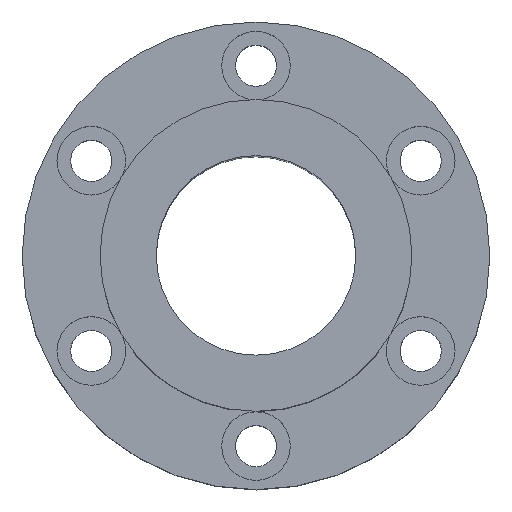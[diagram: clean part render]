
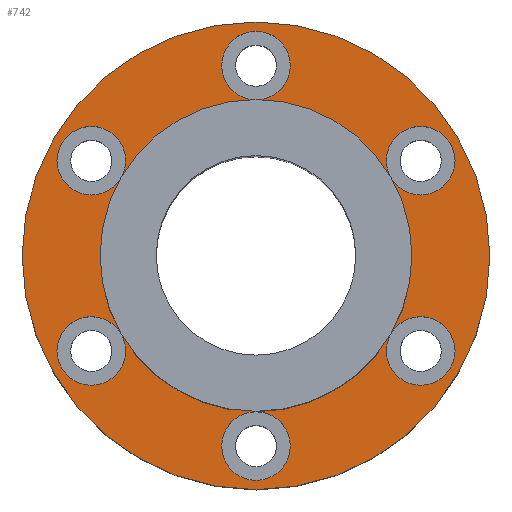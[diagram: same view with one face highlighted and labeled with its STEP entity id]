
A CAD part, top view. The second image highlights one B-rep face of the part: STEP entity #742.
In plain terms, the highlighted planar face has unit normal (0, 0, 1).
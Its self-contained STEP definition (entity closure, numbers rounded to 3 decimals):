
#1=CARTESIAN_POINT('',(0.,0.,14.5));
#2=DIRECTION('',(0.,0.,-1.));
#3=DIRECTION('',(0.866,0.5,0.));
#4=AXIS2_PLACEMENT_3D('',#1,#2,#3);
#6=CARTESIAN_POINT('',(26.414,15.25,14.5));
#7=DIRECTION('',(0.,0.,-1.));
#8=DIRECTION('',(0.5,-0.866,0.));
#9=AXIS2_PLACEMENT_3D('',#6,#7,#8);
#11=CARTESIAN_POINT('',(26.414,15.25,14.5));
#12=DIRECTION('',(0.,0.,-1.));
#13=DIRECTION('',(-0.5,0.866,0.));
#14=AXIS2_PLACEMENT_3D('',#11,#12,#13);
#16=CARTESIAN_POINT('',(26.414,15.25,14.5));
#17=DIRECTION('',(0.,0.,-1.));
#18=DIRECTION('',(-0.866,-0.5,0.));
#19=AXIS2_PLACEMENT_3D('',#16,#17,#18);
#21=CARTESIAN_POINT('',(0.,0.,14.5));
#22=DIRECTION('',(0.,0.,-1.));
#23=DIRECTION('',(0.,1.,0.));
#24=AXIS2_PLACEMENT_3D('',#21,#22,#23);
#26=CARTESIAN_POINT('',(0.,30.5,14.5));
#27=DIRECTION('',(0.,0.,-1.));
#28=DIRECTION('',(1.,0.,0.));
#29=AXIS2_PLACEMENT_3D('',#26,#27,#28);
#31=CARTESIAN_POINT('',(0.,30.5,14.5));
#32=DIRECTION('',(0.,0.,-1.));
#33=DIRECTION('',(-1.,0.,0.));
#34=AXIS2_PLACEMENT_3D('',#31,#32,#33);
#36=CARTESIAN_POINT('',(0.,30.5,14.5));
#37=DIRECTION('',(0.,0.,-1.));
#38=DIRECTION('',(0.,-1.,0.));
#39=AXIS2_PLACEMENT_3D('',#36,#37,#38);
#41=CARTESIAN_POINT('',(0.,0.,14.5));
#42=DIRECTION('',(0.,0.,-1.));
#43=DIRECTION('',(-0.866,0.5,0.));
#44=AXIS2_PLACEMENT_3D('',#41,#42,#43);
#46=CARTESIAN_POINT('',(-26.414,15.25,14.5));
#47=DIRECTION('',(0.,0.,-1.));
#48=DIRECTION('',(0.5,0.866,0.));
#49=AXIS2_PLACEMENT_3D('',#46,#47,#48);
#51=CARTESIAN_POINT('',(-26.414,15.25,14.5));
#52=DIRECTION('',(0.,0.,-1.));
#53=DIRECTION('',(-0.5,-0.866,0.));
#54=AXIS2_PLACEMENT_3D('',#51,#52,#53);
#56=CARTESIAN_POINT('',(-26.414,15.25,14.5));
#57=DIRECTION('',(0.,0.,-1.));
#58=DIRECTION('',(0.866,-0.5,0.));
#59=AXIS2_PLACEMENT_3D('',#56,#57,#58);
#61=CARTESIAN_POINT('',(0.,0.,14.5));
#62=DIRECTION('',(0.,0.,-1.));
#63=DIRECTION('',(-1.,0.,0.));
#64=AXIS2_PLACEMENT_3D('',#61,#62,#63);
#66=CARTESIAN_POINT('',(0.,0.,14.5));
#67=DIRECTION('',(0.,0.,-1.));
#68=DIRECTION('',(-0.866,-0.5,0.));
#69=AXIS2_PLACEMENT_3D('',#66,#67,#68);
#71=CARTESIAN_POINT('',(-26.414,-15.25,14.5));
#72=DIRECTION('',(0.,0.,-1.));
#73=DIRECTION('',(-0.5,0.866,0.));
#74=AXIS2_PLACEMENT_3D('',#71,#72,#73);
#76=CARTESIAN_POINT('',(-26.414,-15.25,14.5));
#77=DIRECTION('',(0.,0.,-1.));
#78=DIRECTION('',(0.5,-0.866,0.));
#79=AXIS2_PLACEMENT_3D('',#76,#77,#78);
#81=CARTESIAN_POINT('',(-26.414,-15.25,14.5));
#82=DIRECTION('',(0.,0.,-1.));
#83=DIRECTION('',(0.866,0.5,0.));
#84=AXIS2_PLACEMENT_3D('',#81,#82,#83);
#86=CARTESIAN_POINT('',(0.,0.,14.5));
#87=DIRECTION('',(0.,0.,-1.));
#88=DIRECTION('',(0.,-1.,0.));
#89=AXIS2_PLACEMENT_3D('',#86,#87,#88);
#91=CARTESIAN_POINT('',(0.,-30.5,14.5));
#92=DIRECTION('',(0.,0.,-1.));
#93=DIRECTION('',(-1.,0.,0.));
#94=AXIS2_PLACEMENT_3D('',#91,#92,#93);
#96=CARTESIAN_POINT('',(0.,-30.5,14.5));
#97=DIRECTION('',(0.,0.,-1.));
#98=DIRECTION('',(1.,0.,0.));
#99=AXIS2_PLACEMENT_3D('',#96,#97,#98);
#101=CARTESIAN_POINT('',(0.,-30.5,14.5));
#102=DIRECTION('',(0.,0.,-1.));
#103=DIRECTION('',(0.,1.,0.));
#104=AXIS2_PLACEMENT_3D('',#101,#102,#103);
#106=CARTESIAN_POINT('',(0.,0.,14.5));
#107=DIRECTION('',(0.,0.,-1.));
#108=DIRECTION('',(0.866,-0.5,0.));
#109=AXIS2_PLACEMENT_3D('',#106,#107,#108);
#111=CARTESIAN_POINT('',(26.414,-15.25,14.5));
#112=DIRECTION('',(0.,0.,-1.));
#113=DIRECTION('',(-0.5,-0.866,0.));
#114=AXIS2_PLACEMENT_3D('',#111,#112,#113);
#116=CARTESIAN_POINT('',(26.414,-15.25,14.5));
#117=DIRECTION('',(0.,0.,-1.));
#118=DIRECTION('',(0.5,0.866,0.));
#119=AXIS2_PLACEMENT_3D('',#116,#117,#118);
#121=CARTESIAN_POINT('',(26.414,-15.25,14.5));
#122=DIRECTION('',(0.,0.,-1.));
#123=DIRECTION('',(-0.866,0.5,0.));
#124=AXIS2_PLACEMENT_3D('',#121,#122,#123);
#126=CARTESIAN_POINT('',(0.,0.,14.5));
#127=DIRECTION('',(0.,0.,-1.));
#128=DIRECTION('',(1.,0.,0.));
#129=AXIS2_PLACEMENT_3D('',#126,#127,#128);
#131=CARTESIAN_POINT('',(0.,0.,14.5));
#132=DIRECTION('',(0.,0.,1.));
#133=DIRECTION('',(1.,0.,0.));
#134=AXIS2_PLACEMENT_3D('',#131,#132,#133);
#136=CARTESIAN_POINT('',(0.,0.,14.5));
#137=DIRECTION('',(0.,0.,1.));
#138=DIRECTION('',(-1.,0.,0.));
#139=AXIS2_PLACEMENT_3D('',#136,#137,#138);
#593=CARTESIAN_POINT('',(-37.5,0.,14.5));
#595=VERTEX_POINT('',#593);
#597=CARTESIAN_POINT('',(37.5,0.,14.5));
#599=VERTEX_POINT('',#597);
#601=CARTESIAN_POINT('',(5.5,30.5,14.5));
#603=VERTEX_POINT('',#601);
#605=CARTESIAN_POINT('',(-5.5,30.5,14.5));
#607=VERTEX_POINT('',#605);
#609=CARTESIAN_POINT('',(-23.664,20.013,14.5));
#611=VERTEX_POINT('',#609);
#613=CARTESIAN_POINT('',(-29.164,10.487,14.5));
#615=VERTEX_POINT('',#613);
#617=CARTESIAN_POINT('',(-29.164,-10.487,14.5));
#619=VERTEX_POINT('',#617);
#621=CARTESIAN_POINT('',(-23.664,-20.013,14.5));
#623=VERTEX_POINT('',#621);
#625=CARTESIAN_POINT('',(-5.5,-30.5,14.5));
#627=VERTEX_POINT('',#625);
#629=CARTESIAN_POINT('',(5.5,-30.5,14.5));
#631=VERTEX_POINT('',#629);
#633=CARTESIAN_POINT('',(23.664,-20.013,14.5));
#635=VERTEX_POINT('',#633);
#637=CARTESIAN_POINT('',(29.164,-10.487,14.5));
#639=VERTEX_POINT('',#637);
#641=CARTESIAN_POINT('',(29.164,10.487,14.5));
#643=VERTEX_POINT('',#641);
#645=CARTESIAN_POINT('',(23.664,20.013,14.5));
#647=VERTEX_POINT('',#645);
#658=CARTESIAN_POINT('',(25.,0.,14.5));
#660=VERTEX_POINT('',#658);
#662=CARTESIAN_POINT('',(-25.,0.,14.5));
#664=VERTEX_POINT('',#662);
#665=CARTESIAN_POINT('',(21.651,-12.5,14.5));
#666=VERTEX_POINT('',#665);
#667=CARTESIAN_POINT('',(0.,-25.,14.5));
#668=VERTEX_POINT('',#667);
#669=CARTESIAN_POINT('',(-21.651,-12.5,14.5));
#670=VERTEX_POINT('',#669);
#671=CARTESIAN_POINT('',(-21.651,12.5,14.5));
#672=VERTEX_POINT('',#671);
#673=CARTESIAN_POINT('',(0.,25.,14.5));
#674=VERTEX_POINT('',#673);
#675=CARTESIAN_POINT('',(21.651,12.5,14.5));
#676=VERTEX_POINT('',#675);
#677=CARTESIAN_POINT('',(0.,0.,14.5));
#678=DIRECTION('',(0.,0.,1.));
#679=DIRECTION('',(1.,0.,0.));
#680=AXIS2_PLACEMENT_3D('',#677,#678,#679);
#681=PLANE('',#680);
#683=ORIENTED_EDGE('',*,*,#682,.F.);
#685=ORIENTED_EDGE('',*,*,#684,.F.);
#686=EDGE_LOOP('',(#683,#685));
#687=FACE_OUTER_BOUND('',#686,.F.);
#689=ORIENTED_EDGE('',*,*,#688,.F.);
#691=ORIENTED_EDGE('',*,*,#690,.F.);
#693=ORIENTED_EDGE('',*,*,#692,.F.);
#695=ORIENTED_EDGE('',*,*,#694,.F.);
#697=ORIENTED_EDGE('',*,*,#696,.F.);
#699=ORIENTED_EDGE('',*,*,#698,.F.);
#701=ORIENTED_EDGE('',*,*,#700,.F.);
#703=ORIENTED_EDGE('',*,*,#702,.F.);
#705=ORIENTED_EDGE('',*,*,#704,.F.);
#707=ORIENTED_EDGE('',*,*,#706,.F.);
#709=ORIENTED_EDGE('',*,*,#708,.F.);
#711=ORIENTED_EDGE('',*,*,#710,.F.);
#713=ORIENTED_EDGE('',*,*,#712,.F.);
#715=ORIENTED_EDGE('',*,*,#714,.F.);
#717=ORIENTED_EDGE('',*,*,#716,.F.);
#719=ORIENTED_EDGE('',*,*,#718,.F.);
#721=ORIENTED_EDGE('',*,*,#720,.F.);
#723=ORIENTED_EDGE('',*,*,#722,.F.);
#725=ORIENTED_EDGE('',*,*,#724,.F.);
#727=ORIENTED_EDGE('',*,*,#726,.F.);
#729=ORIENTED_EDGE('',*,*,#728,.F.);
#731=ORIENTED_EDGE('',*,*,#730,.F.);
#733=ORIENTED_EDGE('',*,*,#732,.F.);
#735=ORIENTED_EDGE('',*,*,#734,.F.);
#737=ORIENTED_EDGE('',*,*,#736,.F.);
#739=ORIENTED_EDGE('',*,*,#738,.F.);
#740=EDGE_LOOP('',(#689,#691,#693,#695,#697,#699,#701,#703,#705,#707,#709,#711,
#713,#715,#717,#719,#721,#723,#725,#727,#729,#731,#733,#735,#737,#739));
#741=FACE_BOUND('',#740,.F.);
#742=ADVANCED_FACE('',(#687,#741),#681,.T.);
#5=CIRCLE('',#4,25.);
#10=CIRCLE('',#9,5.5);
#15=CIRCLE('',#14,5.5);
#20=CIRCLE('',#19,5.5);
#25=CIRCLE('',#24,25.);
#30=CIRCLE('',#29,5.5);
#35=CIRCLE('',#34,5.5);
#40=CIRCLE('',#39,5.5);
#45=CIRCLE('',#44,25.);
#50=CIRCLE('',#49,5.5);
#55=CIRCLE('',#54,5.5);
#60=CIRCLE('',#59,5.5);
#65=CIRCLE('',#64,25.);
#70=CIRCLE('',#69,25.);
#75=CIRCLE('',#74,5.5);
#80=CIRCLE('',#79,5.5);
#85=CIRCLE('',#84,5.5);
#90=CIRCLE('',#89,25.);
#95=CIRCLE('',#94,5.5);
#100=CIRCLE('',#99,5.5);
#105=CIRCLE('',#104,5.5);
#110=CIRCLE('',#109,25.);
#115=CIRCLE('',#114,5.5);
#120=CIRCLE('',#119,5.5);
#125=CIRCLE('',#124,5.5);
#130=CIRCLE('',#129,25.);
#135=CIRCLE('',#134,37.5);
#140=CIRCLE('',#139,37.5);
#682=EDGE_CURVE('',#599,#595,#135,.T.);
#684=EDGE_CURVE('',#595,#599,#140,.T.);
#688=EDGE_CURVE('',#676,#660,#5,.T.);
#690=EDGE_CURVE('',#643,#676,#10,.T.);
#692=EDGE_CURVE('',#647,#643,#15,.T.);
#694=EDGE_CURVE('',#676,#647,#20,.T.);
#696=EDGE_CURVE('',#674,#676,#25,.T.);
#698=EDGE_CURVE('',#603,#674,#30,.T.);
#700=EDGE_CURVE('',#607,#603,#35,.T.);
#702=EDGE_CURVE('',#674,#607,#40,.T.);
#704=EDGE_CURVE('',#672,#674,#45,.T.);
#706=EDGE_CURVE('',#611,#672,#50,.T.);
#708=EDGE_CURVE('',#615,#611,#55,.T.);
#710=EDGE_CURVE('',#672,#615,#60,.T.);
#712=EDGE_CURVE('',#664,#672,#65,.T.);
#714=EDGE_CURVE('',#670,#664,#70,.T.);
#716=EDGE_CURVE('',#619,#670,#75,.T.);
#718=EDGE_CURVE('',#623,#619,#80,.T.);
#720=EDGE_CURVE('',#670,#623,#85,.T.);
#722=EDGE_CURVE('',#668,#670,#90,.T.);
#724=EDGE_CURVE('',#627,#668,#95,.T.);
#726=EDGE_CURVE('',#631,#627,#100,.T.);
#728=EDGE_CURVE('',#668,#631,#105,.T.);
#730=EDGE_CURVE('',#666,#668,#110,.T.);
#732=EDGE_CURVE('',#635,#666,#115,.T.);
#734=EDGE_CURVE('',#639,#635,#120,.T.);
#736=EDGE_CURVE('',#666,#639,#125,.T.);
#738=EDGE_CURVE('',#660,#666,#130,.T.);
